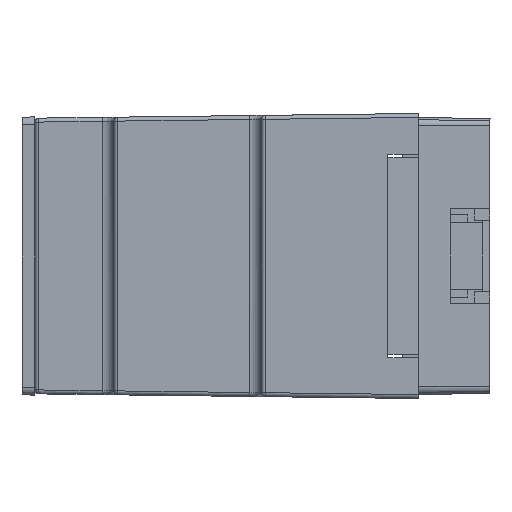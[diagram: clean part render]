
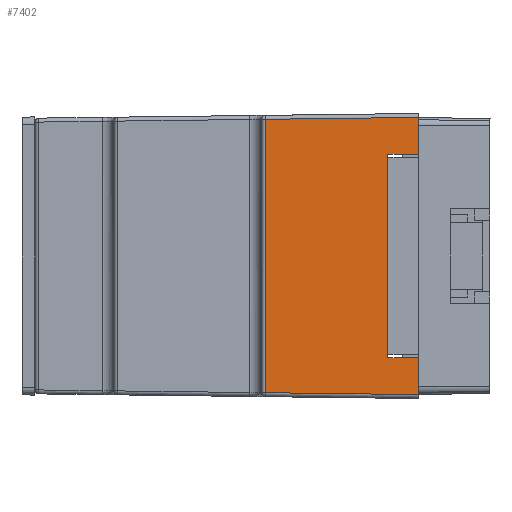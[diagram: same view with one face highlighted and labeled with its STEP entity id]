
A CAD part, left-side view. The second image highlights one B-rep face of the part: STEP entity #7402.
In plain terms, the highlighted planar face has unit normal (-1, 0.023, 0).
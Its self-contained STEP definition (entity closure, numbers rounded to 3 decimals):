
#80 = CARTESIAN_POINT ( 'NONE',  ( -42.559, 19.411, -17.263 ) ) ;
#497 = ORIENTED_EDGE ( 'NONE', *, *, #13275, .T. ) ;
#798 = VECTOR ( 'NONE', #15269, 1000. ) ;
#1231 = CARTESIAN_POINT ( 'NONE',  ( -42.911, 3.9, -18. ) ) ;
#1589 = ORIENTED_EDGE ( 'NONE', *, *, #11132, .T. ) ;
#1753 = VERTEX_POINT ( 'NONE', #13513 ) ;
#1762 = LINE ( 'NONE', #6553, #14087 ) ;
#1775 = LINE ( 'NONE', #5257, #4293 ) ;
#3446 = DIRECTION ( 'NONE',  ( -0.023, -1., 0. ) ) ;
#3518 = LINE ( 'NONE', #13020, #798 ) ;
#3617 = CARTESIAN_POINT ( 'NONE',  ( -42.911, 3.9, -12.85 ) ) ;
#3689 = EDGE_CURVE ( 'NONE', #9335, #4105, #10825, .T. ) ;
#3911 = LINE ( 'NONE', #9871, #8018 ) ;
#4105 = VERTEX_POINT ( 'NONE', #3617 ) ;
#4160 = DIRECTION ( 'NONE',  ( 0., 0., -1. ) ) ;
#4293 = VECTOR ( 'NONE', #9768, 1000. ) ;
#4430 = CARTESIAN_POINT ( 'NONE',  ( -43., 0., -12.85 ) ) ;
#4447 = CARTESIAN_POINT ( 'NONE',  ( -42.911, 3.9, 12.85 ) ) ;
#4617 = CARTESIAN_POINT ( 'NONE',  ( -43., 0., 12.85 ) ) ;
#5257 = CARTESIAN_POINT ( 'NONE',  ( -42.99, 0.433, 17.495 ) ) ;
#5482 = VECTOR ( 'NONE', #10593, 1000. ) ;
#5761 = VECTOR ( 'NONE', #14950, 1000. ) ;
#5777 = EDGE_CURVE ( 'NONE', #13534, #8058, #3911, .T. ) ;
#5885 = EDGE_CURVE ( 'NONE', #7195, #9335, #12553, .T. ) ;
#6412 = ORIENTED_EDGE ( 'NONE', *, *, #8423, .T. ) ;
#6553 = CARTESIAN_POINT ( 'NONE',  ( -42.559, 19.411, -18. ) ) ;
#6576 = CARTESIAN_POINT ( 'NONE',  ( -43., 0., -17.5 ) ) ;
#6846 = ORIENTED_EDGE ( 'NONE', *, *, #3689, .F. ) ;
#7083 = PLANE ( 'NONE',  #12943 ) ;
#7195 = VERTEX_POINT ( 'NONE', #4617 ) ;
#7338 = VERTEX_POINT ( 'NONE', #8244 ) ;
#7402 = ADVANCED_FACE ( 'NONE', ( #9170 ), #7083, .T. ) ;
#7734 = EDGE_CURVE ( 'NONE', #7195, #9257, #8695, .T. ) ;
#7757 = EDGE_CURVE ( 'NONE', #4105, #1753, #12847, .T. ) ;
#7766 = DIRECTION ( 'NONE',  ( 0., 0., 1. ) ) ;
#8018 = VECTOR ( 'NONE', #12107, 1000. ) ;
#8058 = VERTEX_POINT ( 'NONE', #6576 ) ;
#8089 = CARTESIAN_POINT ( 'NONE',  ( -43., 0., -18. ) ) ;
#8135 = ORIENTED_EDGE ( 'NONE', *, *, #5777, .T. ) ;
#8244 = CARTESIAN_POINT ( 'NONE',  ( -42.559, 19.411, 17.263 ) ) ;
#8423 = EDGE_CURVE ( 'NONE', #8058, #1753, #3518, .T. ) ;
#8695 = LINE ( 'NONE', #13625, #10423 ) ;
#9170 = FACE_OUTER_BOUND ( 'NONE', #10769, .T. ) ;
#9257 = VERTEX_POINT ( 'NONE', #12412 ) ;
#9335 = VERTEX_POINT ( 'NONE', #4447 ) ;
#9667 = ORIENTED_EDGE ( 'NONE', *, *, #7757, .F. ) ;
#9768 = DIRECTION ( 'NONE',  ( 0.023, 1., -0.012 ) ) ;
#9871 = CARTESIAN_POINT ( 'NONE',  ( -43., -0.006, -17.5 ) ) ;
#10383 = DIRECTION ( 'NONE',  ( -0.023, -1., 0. ) ) ;
#10423 = VECTOR ( 'NONE', #7766, 1000. ) ;
#10593 = DIRECTION ( 'NONE',  ( 0., 0., -1. ) ) ;
#10769 = EDGE_LOOP ( 'NONE', ( #13748, #12954, #497, #1589, #8135, #6412, #9667, #6846 ) ) ;
#10825 = LINE ( 'NONE', #1231, #5482 ) ;
#11132 = EDGE_CURVE ( 'NONE', #7338, #13534, #1762, .T. ) ;
#11400 = VECTOR ( 'NONE', #10383, 1000. ) ;
#12107 = DIRECTION ( 'NONE',  ( -0.023, -1., -0.012 ) ) ;
#12412 = CARTESIAN_POINT ( 'NONE',  ( -43., 0., 17.5 ) ) ;
#12553 = LINE ( 'NONE', #12624, #5761 ) ;
#12624 = CARTESIAN_POINT ( 'NONE',  ( -43., 0., 12.85 ) ) ;
#12847 = LINE ( 'NONE', #4430, #11400 ) ;
#12943 = AXIS2_PLACEMENT_3D ( 'NONE', #8089, #14030, #3446 ) ;
#12954 = ORIENTED_EDGE ( 'NONE', *, *, #7734, .T. ) ;
#13020 = CARTESIAN_POINT ( 'NONE',  ( -43., 0., -18. ) ) ;
#13275 = EDGE_CURVE ( 'NONE', #9257, #7338, #1775, .T. ) ;
#13513 = CARTESIAN_POINT ( 'NONE',  ( -43., 0., -12.85 ) ) ;
#13534 = VERTEX_POINT ( 'NONE', #80 ) ;
#13625 = CARTESIAN_POINT ( 'NONE',  ( -43., 0., -18. ) ) ;
#13748 = ORIENTED_EDGE ( 'NONE', *, *, #5885, .F. ) ;
#14030 = DIRECTION ( 'NONE',  ( -1., 0.023, 0. ) ) ;
#14087 = VECTOR ( 'NONE', #4160, 1000. ) ;
#14950 = DIRECTION ( 'NONE',  ( 0.023, 1., 0. ) ) ;
#15269 = DIRECTION ( 'NONE',  ( 0., 0., 1. ) ) ;
